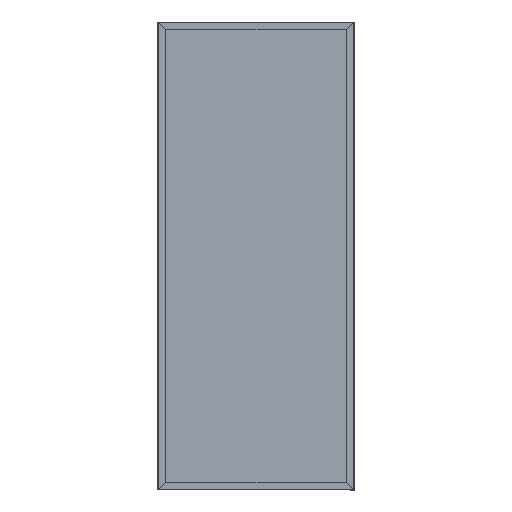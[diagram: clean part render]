
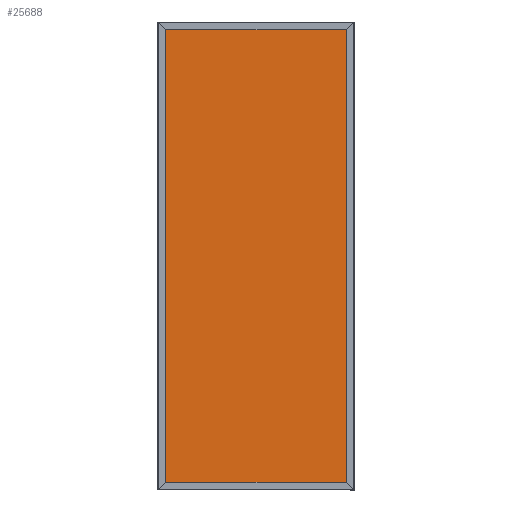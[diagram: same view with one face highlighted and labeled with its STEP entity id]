
A CAD part, top view. The second image highlights one B-rep face of the part: STEP entity #25688.
In plain terms, the highlighted planar face has unit normal (0, 0, 1).
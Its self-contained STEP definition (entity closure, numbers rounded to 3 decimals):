
#417 = ORIENTED_EDGE ( 'NONE', *, *, #27212, .F. ) ;
#840 = CARTESIAN_POINT ( 'NONE',  ( -465.07, -1162.2, -13.25 ) ) ;
#2281 = CARTESIAN_POINT ( 'NONE',  ( 465.07, 0., -13.25 ) ) ;
#2336 = CARTESIAN_POINT ( 'NONE',  ( 0., 1162.2, -13.25 ) ) ;
#3855 = FACE_OUTER_BOUND ( 'NONE', #26281, .T. ) ;
#4438 = ORIENTED_EDGE ( 'NONE', *, *, #15460, .T. ) ;
#5884 = CARTESIAN_POINT ( 'NONE',  ( -465.07, 0., -13.25 ) ) ;
#6833 = ORIENTED_EDGE ( 'NONE', *, *, #12942, .T. ) ;
#7306 = EDGE_CURVE ( 'NONE', #10538, #27194, #7687, .T. ) ;
#7324 = ORIENTED_EDGE ( 'NONE', *, *, #7306, .F. ) ;
#7687 = LINE ( 'NONE', #9902, #11857 ) ;
#8734 = CARTESIAN_POINT ( 'NONE',  ( 0., 0., -13.25 ) ) ;
#8781 = LINE ( 'NONE', #2281, #11808 ) ;
#9902 = CARTESIAN_POINT ( 'NONE',  ( 0., -1162.2, -13.25 ) ) ;
#10538 = VERTEX_POINT ( 'NONE', #28218 ) ;
#11808 = VECTOR ( 'NONE', #23900, 1000. ) ;
#11857 = VECTOR ( 'NONE', #12570, 1000. ) ;
#12570 = DIRECTION ( 'NONE',  ( -1., 0., 0. ) ) ;
#12942 = EDGE_CURVE ( 'NONE', #10538, #24584, #8781, .T. ) ;
#15460 = EDGE_CURVE ( 'NONE', #24584, #18774, #16530, .T. ) ;
#16530 = LINE ( 'NONE', #2336, #18907 ) ;
#17872 = DIRECTION ( 'NONE',  ( 0., 1., 0. ) ) ;
#18372 = DIRECTION ( 'NONE',  ( 0., 0., -1. ) ) ;
#18676 = DIRECTION ( 'NONE',  ( -1., 0., 0. ) ) ;
#18774 = VERTEX_POINT ( 'NONE', #30321 ) ;
#18907 = VECTOR ( 'NONE', #28351, 1000. ) ;
#23096 = PLANE ( 'NONE',  #23640 ) ;
#23640 = AXIS2_PLACEMENT_3D ( 'NONE', #8734, #18372, #18676 ) ;
#23900 = DIRECTION ( 'NONE',  ( 0., 1., 0. ) ) ;
#24584 = VERTEX_POINT ( 'NONE', #25890 ) ;
#25688 = ADVANCED_FACE ( 'NONE', ( #3855 ), #23096, .F. ) ;
#25890 = CARTESIAN_POINT ( 'NONE',  ( 465.07, 1162.2, -13.25 ) ) ;
#26281 = EDGE_LOOP ( 'NONE', ( #417, #7324, #6833, #4438 ) ) ;
#27194 = VERTEX_POINT ( 'NONE', #840 ) ;
#27212 = EDGE_CURVE ( 'NONE', #27194, #18774, #29538, .T. ) ;
#28218 = CARTESIAN_POINT ( 'NONE',  ( 465.07, -1162.2, -13.25 ) ) ;
#28351 = DIRECTION ( 'NONE',  ( -1., 0., 0. ) ) ;
#29538 = LINE ( 'NONE', #5884, #30377 ) ;
#30321 = CARTESIAN_POINT ( 'NONE',  ( -465.07, 1162.2, -13.25 ) ) ;
#30377 = VECTOR ( 'NONE', #17872, 1000. ) ;
